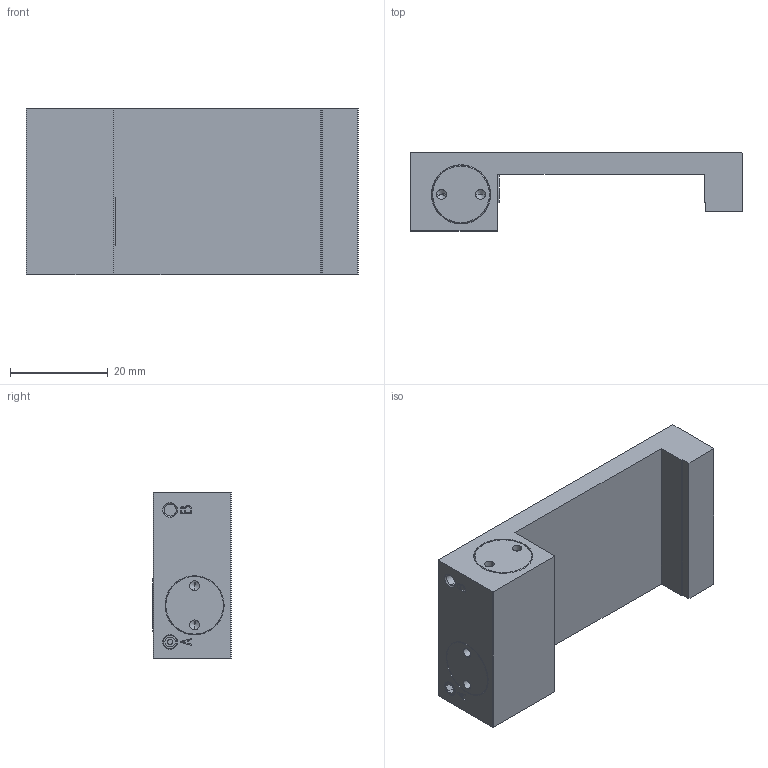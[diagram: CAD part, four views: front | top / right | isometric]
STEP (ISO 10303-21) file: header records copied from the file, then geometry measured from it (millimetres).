
FILE_DESCRIPTION( ( '' ), '1' );
FILE_NAME( 'E:/04 嬴檜蠱滌/0404 ZIMMER/040414 ZIMMER CAD download/MCP/MCP1503MW---.stp', '2020-04-16T10:02:35', ( '' ), ( '' ), ' ', ' ', ' ' );
FILE_SCHEMA( ( 'automotive_design' ) );
Length unit declared in the file: millimetre
Products named in the file (1): 1
Bounding box: 68 x 16.05 x 34 mm (x, y, z)
Volume: 19125.4 mm3; surface area: 7784.3 mm2
Topology: 1 solids, 1 shells, 118 faces, 280 edges, 176 vertices
Faces by surface type: plane 64, cylinder 32, cone 22
Entity records: 6536 total; most frequent: DIRECTION 590, STYLED_ITEM 567, PRESENTATION_STYLE_ASSIGNMENT 567, CARTESIAN_POINT 567, COLOUR_RGB 567, ORIENTED_EDGE 544, EDGE_CURVE 272, CURVE_STYLE 272
